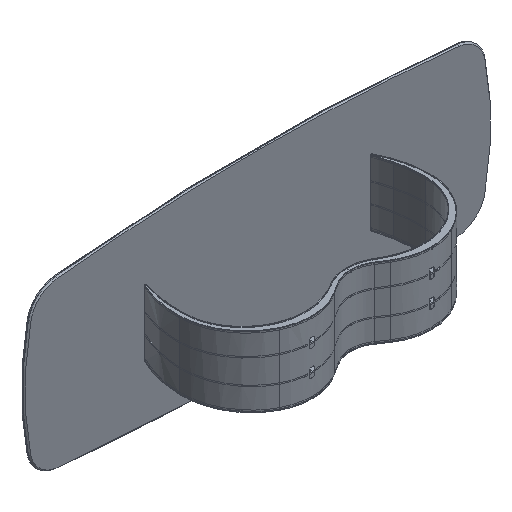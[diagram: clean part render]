
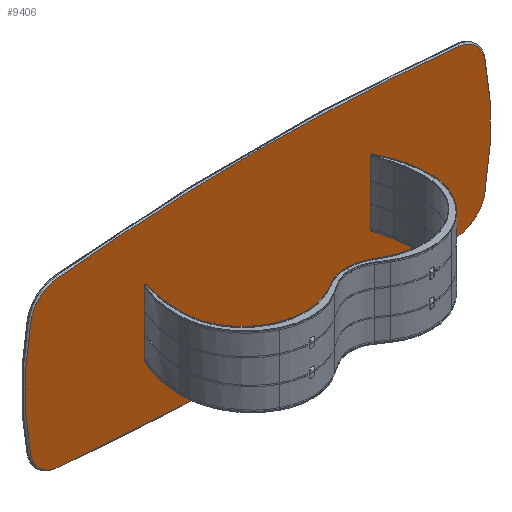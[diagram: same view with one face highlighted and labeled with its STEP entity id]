
A CAD part, isometric view. The second image highlights one B-rep face of the part: STEP entity #9406.
In plain terms, the highlighted planar face has unit normal (0, -1, 0).
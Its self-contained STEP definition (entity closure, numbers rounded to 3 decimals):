
#787 = CARTESIAN_POINT ( 'NONE',  ( 1454.991, 0., -372.386 ) ) ;
#1046 = VERTEX_POINT ( 'NONE', #31878 ) ;
#1723 = CIRCLE ( 'NONE', #9502, 12492. ) ;
#1947 = CARTESIAN_POINT ( 'NONE',  ( 0., 0., -11900. ) ) ;
#2942 = AXIS2_PLACEMENT_3D ( 'NONE', #25546, #11976, #4269 ) ;
#2964 = DIRECTION ( 'NONE',  ( 0., 0., 1. ) ) ;
#3123 = EDGE_CURVE ( 'NONE', #22998, #24310, #25716, .T. ) ;
#3573 = DIRECTION ( 'NONE',  ( 0., -1., 0. ) ) ;
#3727 = CARTESIAN_POINT ( 'NONE',  ( -1454.991, 0., 372.386 ) ) ;
#4241 = EDGE_CURVE ( 'NONE', #1046, #27653, #31308, .T. ) ;
#4269 = DIRECTION ( 'NONE',  ( 0., 0., 1. ) ) ;
#4646 = CARTESIAN_POINT ( 'NONE',  ( -1454.991, 0., -372.386 ) ) ;
#4706 = DIRECTION ( 'NONE',  ( 0., -1., 0. ) ) ;
#5538 = DIRECTION ( 'NONE',  ( 0., 0., 1. ) ) ;
#5738 = DIRECTION ( 'NONE',  ( 0., -1., 0. ) ) ;
#5852 = CARTESIAN_POINT ( 'NONE',  ( 0., 0., 11900. ) ) ;
#6089 = CARTESIAN_POINT ( 'NONE',  ( -1286.52, 0., 525.576 ) ) ;
#7056 = CIRCLE ( 'NONE', #23198, 192. ) ;
#7304 = DIRECTION ( 'NONE',  ( 0., -1., 0. ) ) ;
#7362 = VERTEX_POINT ( 'NONE', #9560 ) ;
#7682 = ORIENTED_EDGE ( 'NONE', *, *, #27501, .T. ) ;
#9406 = ADVANCED_FACE ( 'NONE', ( #21403 ), #18776, .F. ) ;
#9502 = AXIS2_PLACEMENT_3D ( 'NONE', #1947, #4706, #25630 ) ;
#9560 = CARTESIAN_POINT ( 'NONE',  ( -1286.52, 0., -525.576 ) ) ;
#9856 = VERTEX_POINT ( 'NONE', #3727 ) ;
#10552 = DIRECTION ( 'NONE',  ( 0., 0., 1. ) ) ;
#11730 = AXIS2_PLACEMENT_3D ( 'NONE', #19190, #19358, #24935 ) ;
#11976 = DIRECTION ( 'NONE',  ( 0., -1., 0. ) ) ;
#12719 = VERTEX_POINT ( 'NONE', #18529 ) ;
#12887 = ORIENTED_EDGE ( 'NONE', *, *, #31983, .T. ) ;
#13060 = CARTESIAN_POINT ( 'NONE',  ( 400., 0., 0. ) ) ;
#13184 = CIRCLE ( 'NONE', #24298, 1892. ) ;
#13413 = CARTESIAN_POINT ( 'NONE',  ( 1266.747, 0., -334.597 ) ) ;
#14907 = VERTEX_POINT ( 'NONE', #6089 ) ;
#15262 = CARTESIAN_POINT ( 'NONE',  ( -400., 0., 0. ) ) ;
#15330 = DIRECTION ( 'NONE',  ( 0., -1., 0. ) ) ;
#15945 = DIRECTION ( 'NONE',  ( 0., -1., 0. ) ) ;
#16440 = EDGE_LOOP ( 'NONE', ( #26195, #32835, #12887, #23357, #17625, #27638, #16938, #7682, #33078 ) ) ;
#16938 = ORIENTED_EDGE ( 'NONE', *, *, #29233, .T. ) ;
#17057 = CIRCLE ( 'NONE', #17612, 192. ) ;
#17246 = CIRCLE ( 'NONE', #11730, 192. ) ;
#17559 = VERTEX_POINT ( 'NONE', #4646 ) ;
#17612 = AXIS2_PLACEMENT_3D ( 'NONE', #34275, #21544, #18748 ) ;
#17625 = ORIENTED_EDGE ( 'NONE', *, *, #19769, .T. ) ;
#18391 = EDGE_CURVE ( 'NONE', #17559, #7362, #17057, .T. ) ;
#18529 = CARTESIAN_POINT ( 'NONE',  ( 1286.52, 0., -525.576 ) ) ;
#18748 = DIRECTION ( 'NONE',  ( 0., 0., 1. ) ) ;
#18776 = PLANE ( 'NONE',  #28543 ) ;
#19190 = CARTESIAN_POINT ( 'NONE',  ( -1266.747, 0., 334.597 ) ) ;
#19358 = DIRECTION ( 'NONE',  ( 0., -1., 0. ) ) ;
#19769 = EDGE_CURVE ( 'NONE', #24310, #1046, #7056, .T. ) ;
#19858 = EDGE_CURVE ( 'NONE', #9856, #17559, #13184, .T. ) ;
#19889 = CARTESIAN_POINT ( 'NONE',  ( 0., 0., 592. ) ) ;
#19966 = EDGE_CURVE ( 'NONE', #7362, #12719, #25990, .T. ) ;
#21403 = FACE_OUTER_BOUND ( 'NONE', #16440, .T. ) ;
#21544 = DIRECTION ( 'NONE',  ( 0., -1., 0. ) ) ;
#22998 = VERTEX_POINT ( 'NONE', #787 ) ;
#23198 = AXIS2_PLACEMENT_3D ( 'NONE', #28561, #7304, #23340 ) ;
#23340 = DIRECTION ( 'NONE',  ( 0., 0., 1. ) ) ;
#23357 = ORIENTED_EDGE ( 'NONE', *, *, #3123, .T. ) ;
#23503 = DIRECTION ( 'NONE',  ( 0., 0., 1. ) ) ;
#24298 = AXIS2_PLACEMENT_3D ( 'NONE', #13060, #15330, #23503 ) ;
#24310 = VERTEX_POINT ( 'NONE', #27555 ) ;
#24935 = DIRECTION ( 'NONE',  ( 0., 0., 1. ) ) ;
#24960 = AXIS2_PLACEMENT_3D ( 'NONE', #13413, #5738, #2964 ) ;
#25546 = CARTESIAN_POINT ( 'NONE',  ( 0., 0., -11900. ) ) ;
#25630 = DIRECTION ( 'NONE',  ( 0., 0., 1. ) ) ;
#25716 = CIRCLE ( 'NONE', #26820, 1892. ) ;
#25990 = CIRCLE ( 'NONE', #30446, 12492. ) ;
#26195 = ORIENTED_EDGE ( 'NONE', *, *, #18391, .T. ) ;
#26820 = AXIS2_PLACEMENT_3D ( 'NONE', #15262, #15945, #10552 ) ;
#27120 = DIRECTION ( 'NONE',  ( 0., 0., 1. ) ) ;
#27147 = CARTESIAN_POINT ( 'NONE',  ( -200., 0., 5950. ) ) ;
#27501 = EDGE_CURVE ( 'NONE', #14907, #9856, #17246, .T. ) ;
#27555 = CARTESIAN_POINT ( 'NONE',  ( 1454.991, 0., 372.386 ) ) ;
#27638 = ORIENTED_EDGE ( 'NONE', *, *, #4241, .T. ) ;
#27653 = VERTEX_POINT ( 'NONE', #19889 ) ;
#28543 = AXIS2_PLACEMENT_3D ( 'NONE', #27147, #29408, #5538 ) ;
#28561 = CARTESIAN_POINT ( 'NONE',  ( 1266.747, 0., 334.597 ) ) ;
#29233 = EDGE_CURVE ( 'NONE', #27653, #14907, #1723, .T. ) ;
#29408 = DIRECTION ( 'NONE',  ( 0., 1., 0. ) ) ;
#30446 = AXIS2_PLACEMENT_3D ( 'NONE', #5852, #3573, #27120 ) ;
#31308 = CIRCLE ( 'NONE', #2942, 12492. ) ;
#31878 = CARTESIAN_POINT ( 'NONE',  ( 1286.52, 0., 525.576 ) ) ;
#31983 = EDGE_CURVE ( 'NONE', #12719, #22998, #33871, .T. ) ;
#32835 = ORIENTED_EDGE ( 'NONE', *, *, #19966, .T. ) ;
#33078 = ORIENTED_EDGE ( 'NONE', *, *, #19858, .T. ) ;
#33871 = CIRCLE ( 'NONE', #24960, 192. ) ;
#34275 = CARTESIAN_POINT ( 'NONE',  ( -1266.747, 0., -334.597 ) ) ;
